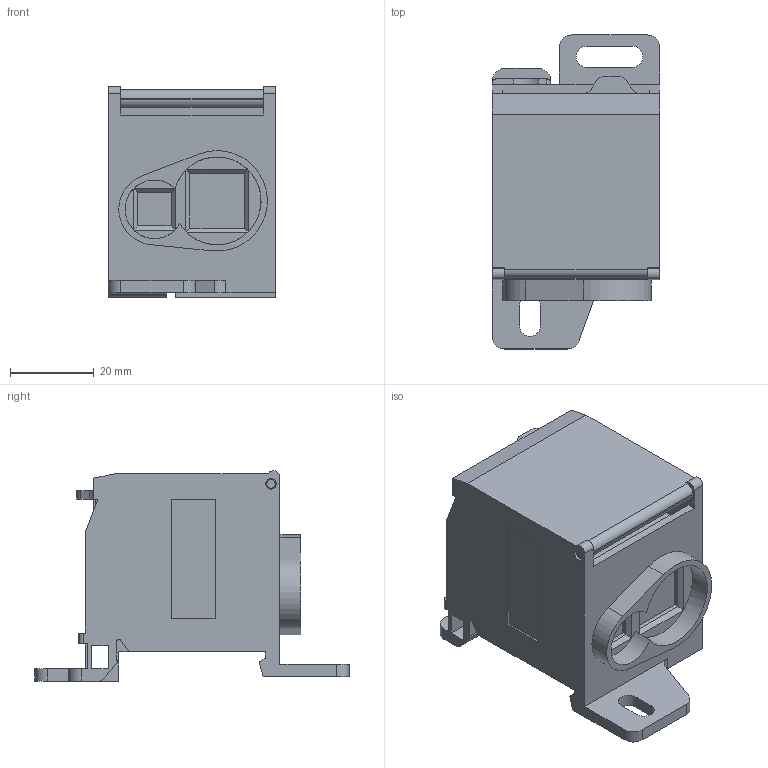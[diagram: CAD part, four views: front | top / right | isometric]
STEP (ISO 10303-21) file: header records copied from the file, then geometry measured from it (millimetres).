
FILE_DESCRIPTION(('Open CASCADE Model'),'2;1');
FILE_NAME('Open CASCADE Shape Model','2023-10-10T09:21:50',('Author'),( 'Open CASCADE'),'Open CASCADE STEP processor 6.5','Open CASCADE 6.5' ,'Unknown');
FILE_SCHEMA(('AUTOMOTIVE_DESIGN { 1 0 10303 214 1 1 1 1 }'));
Length unit declared in the file: millimetre
Products named in the file (214): CADSOFTTOOLS 1; CADSOFTTOOLS 1.1; CADSOFTTOOLS 1.2; CADSOFTTOOLS 1.3; CADSOFTTOOLS 1.4; CADSOFTTOOLS 1.5; CADSOFTTOOLS 1.6; CADSOFTTOOLS 1.7; CADSOFTTOOLS 1.8; CADSOFTTOOLS 1.9; CADSOFTTOOLS 1.10; CADSOFTTOOLS 1.11; CADSOFTTOOLS 1.12; CADSOFTTOOLS 1.13; CADSOFTTOOLS 1.14; CADSOFTTOOLS 1.15; CADSOFTTOOLS 1.16; CADSOFTTOOLS 1.17; CADSOFTTOOLS 1.18; CADSOFTTOOLS 1.19; CADSOFTTOOLS 1.20; CADSOFTTOOLS 1.21; CADSOFTTOOLS 1.22; CADSOFTTOOLS 1.23; CADSOFTTOOLS 1.24; CADSOFTTOOLS 1.25; CADSOFTTOOLS 1.26; CADSOFTTOOLS 1.27; CADSOFTTOOLS 1.28; CADSOFTTOOLS 1.29; CADSOFTTOOLS 1.30; CADSOFTTOOLS 1.31; CADSOFTTOOLS 1.32; CADSOFTTOOLS 1.33; CADSOFTTOOLS 1.34; CADSOFTTOOLS 1.35; CADSOFTTOOLS 1.36; CADSOFTTOOLS 1.37; CADSOFTTOOLS 1.38; CADSOFTTOOLS 1.39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
Assembly tree (213 placements, depth 2):
  CADSOFTTOOLS 1
    CADSOFTTOOLS 1.1
    CADSOFTTOOLS 1.2
    CADSOFTTOOLS 1.3
    CADSOFTTOOLS 1.4
    CADSOFTTOOLS 1.5
    CADSOFTTOOLS 1.6
    CADSOFTTOOLS 1.7
    CADSOFTTOOLS 1.8
    CADSOFTTOOLS 1.9
    CADSOFTTOOLS 1.10
    CADSOFTTOOLS 1.11
    CADSOFTTOOLS 1.12
    CADSOFTTOOLS 1.13
    CADSOFTTOOLS 1.14
    CADSOFTTOOLS 1.15
    CADSOFTTOOLS 1.16
    CADSOFTTOOLS 1.17
    CADSOFTTOOLS 1.18
    CADSOFTTOOLS 1.19
    CADSOFTTOOLS 1.20
    CADSOFTTOOLS 1.21
    CADSOFTTOOLS 1.22
    CADSOFTTOOLS 1.23
    CADSOFTTOOLS 1.24
    CADSOFTTOOLS 1.25
    CADSOFTTOOLS 1.26
    CADSOFTTOOLS 1.27
    CADSOFTTOOLS 1.28
    CADSOFTTOOLS 1.29
    CADSOFTTOOLS 1.30
    CADSOFTTOOLS 1.31
    CADSOFTTOOLS 1.32
    CADSOFTTOOLS 1.33
    CADSOFTTOOLS 1.34
    CADSOFTTOOLS 1.35
    CADSOFTTOOLS 1.36
    CADSOFTTOOLS 1.37
    CADSOFTTOOLS 1.38
    CADSOFTTOOLS 1.39
    CADSOFTTOOLS 1.40
    CADSOFTTOOLS 1.41
    CADSOFTTOOLS 1.42
    CADSOFTTOOLS 1.43
    CADSOFTTOOLS 1.44
    CADSOFTTOOLS 1.45
    CADSOFTTOOLS 1.46
    CADSOFTTOOLS 1.47
    CADSOFTTOOLS 1.48
    CADSOFTTOOLS 1.49
    CADSOFTTOOLS 1.50
    CADSOFTTOOLS 1.51
    CADSOFTTOOLS 1.52
    CADSOFTTOOLS 1.53
    CADSOFTTOOLS 1.54
    CADSOFTTOOLS 1.55
    CADSOFTTOOLS 1.56
    CADSOFTTOOLS 1.57
    CADSOFTTOOLS 1.58
    CADSOFTTOOLS 1.59
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Bounding box: 40 x 75 x 50.24 mm (x, y, z)
Surface area: 23090.1 mm2 (no closed solid volume)
Topology: 0 solids, 213 shells, 213 faces, 1148 edges, 1136 vertices
Faces by surface type: plane 154, cylinder 59
Full cylindrical faces by diameter (mm): 2 x2, 2.5 x2, 7 x8
Entity records: 24849 total; most frequent: CARTESIAN_POINT 5865, DIRECTION 3114, LINE 1585, VECTOR 1585, ORIENTED_EDGE 1160, PCURVE 1160, DEFINITIONAL_REPRESENTATION 1160, EDGE_CURVE 1148
